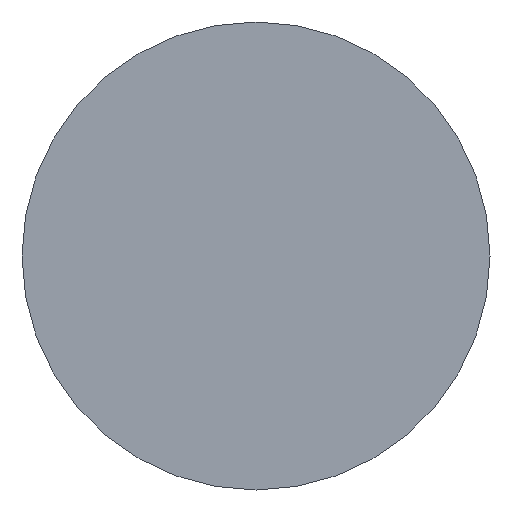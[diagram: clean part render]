
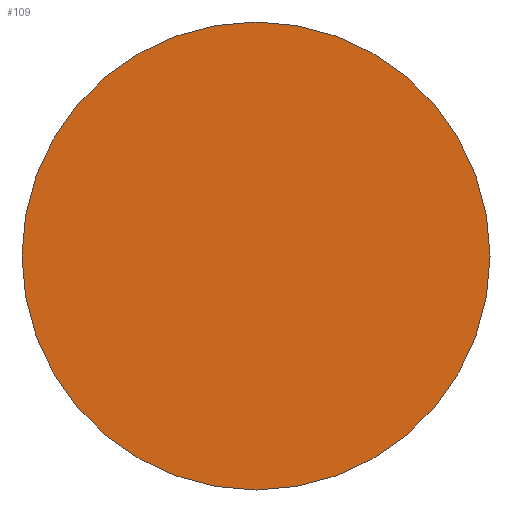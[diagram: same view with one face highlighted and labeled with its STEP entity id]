
A CAD part, front view. The second image highlights one B-rep face of the part: STEP entity #109.
In plain terms, the highlighted planar face has unit normal (0, -1, 0).
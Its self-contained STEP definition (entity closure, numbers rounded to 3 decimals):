
#31 = CYLINDRICAL_SURFACE('',#32,11.);
#32 = AXIS2_PLACEMENT_3D('',#33,#34,#35);
#33 = CARTESIAN_POINT('',(220.,-146.913,125.));
#34 = DIRECTION('',(0.,1.,0.));
#35 = DIRECTION('',(0.,-0.,1.));
#56 = VERTEX_POINT('',#57);
#57 = CARTESIAN_POINT('',(220.,-146.913,136.));
#78 = EDGE_CURVE('',#56,#56,#79,.T.);
#79 = SURFACE_CURVE('',#80,(#85,#92),.PCURVE_S1.);
#80 = CIRCLE('',#81,11.);
#81 = AXIS2_PLACEMENT_3D('',#82,#83,#84);
#82 = CARTESIAN_POINT('',(220.,-146.913,125.));
#83 = DIRECTION('',(0.,1.,0.));
#84 = DIRECTION('',(0.,-0.,1.));
#85 = PCURVE('',#31,#86);
#86 = DEFINITIONAL_REPRESENTATION('',(#87),#91);
#87 = LINE('',#88,#89);
#88 = CARTESIAN_POINT('',(0.,0.));
#89 = VECTOR('',#90,1.);
#90 = DIRECTION('',(1.,0.));
#91 = ( GEOMETRIC_REPRESENTATION_CONTEXT(2) 
PARAMETRIC_REPRESENTATION_CONTEXT() REPRESENTATION_CONTEXT('2D SPACE',''
  ) );
#92 = PCURVE('',#93,#98);
#93 = PLANE('',#94);
#94 = AXIS2_PLACEMENT_3D('',#95,#96,#97);
#95 = CARTESIAN_POINT('',(220.,-146.913,125.));
#96 = DIRECTION('',(0.,1.,0.));
#97 = DIRECTION('',(0.,-0.,1.));
#98 = DEFINITIONAL_REPRESENTATION('',(#99),#103);
#99 = CIRCLE('',#100,11.);
#100 = AXIS2_PLACEMENT_2D('',#101,#102);
#101 = CARTESIAN_POINT('',(0.,0.));
#102 = DIRECTION('',(1.,0.));
#103 = ( GEOMETRIC_REPRESENTATION_CONTEXT(2) 
PARAMETRIC_REPRESENTATION_CONTEXT() REPRESENTATION_CONTEXT('2D SPACE',''
  ) );
#109 = ADVANCED_FACE('',(#110),#93,.F.);
#110 = FACE_BOUND('',#111,.T.);
#111 = EDGE_LOOP('',(#112));
#112 = ORIENTED_EDGE('',*,*,#78,.F.);
